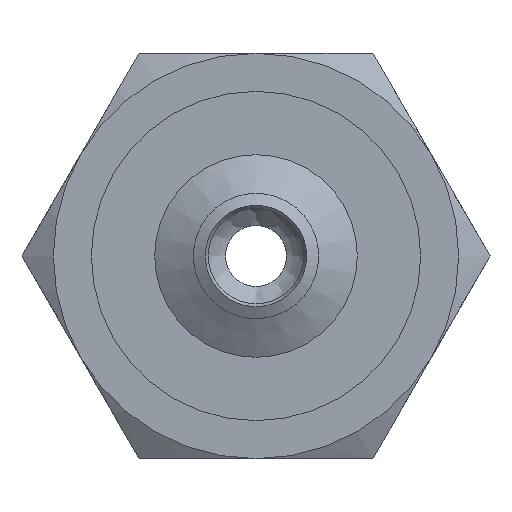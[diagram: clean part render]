
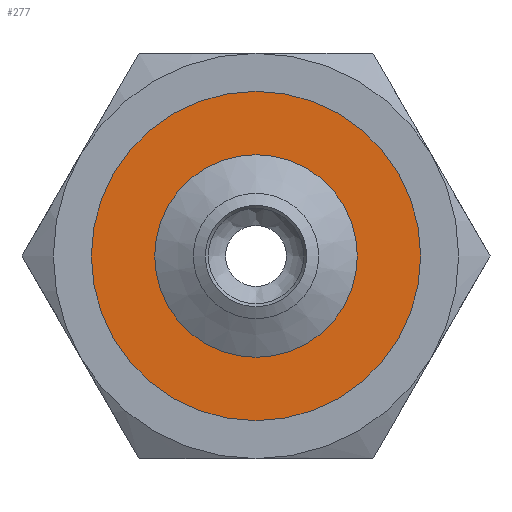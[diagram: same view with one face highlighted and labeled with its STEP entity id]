
A CAD part, front view. The second image highlights one B-rep face of the part: STEP entity #277.
In plain terms, the highlighted planar face has unit normal (0, -1, 0).
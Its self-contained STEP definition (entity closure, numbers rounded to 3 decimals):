
#277=ADVANCED_FACE('',(#357,#358),#359,.T.);
#357=FACE_BOUND('',#526,.T.);
#358=FACE_OUTER_BOUND('',#527,.T.);
#359=PLANE('',#528);
#526=EDGE_LOOP('',(#744));
#527=EDGE_LOOP('',(#745));
#528=AXIS2_PLACEMENT_3D('',#746,#747,#748);
#744=ORIENTED_EDGE('',*,*,#1064,.F.);
#745=ORIENTED_EDGE('',*,*,#1068,.T.);
#746=CARTESIAN_POINT('',(0.6,0.,0.0));
#747=DIRECTION('',(0.0,-1.0,0.0));
#748=DIRECTION('',(0.0,0.0,-1.0));
#1064=EDGE_CURVE('',#1156,#1156,#1157,.T.);
#1068=EDGE_CURVE('',#1164,#1164,#1165,.T.);
#1156=VERTEX_POINT('',#1308);
#1157=CIRCLE('',#1309,1.0);
#1164=VERTEX_POINT('',#1316);
#1165=CIRCLE('',#1317,3.25);
#1308=CARTESIAN_POINT('',(0.0,0.,-1.0));
#1309=AXIS2_PLACEMENT_3D('',#1509,#1510,#1511);
#1316=CARTESIAN_POINT('',(0.0,0.,-3.25));
#1317=AXIS2_PLACEMENT_3D('',#1521,#1522,#1523);
#1509=CARTESIAN_POINT('',(0.0,0.,0.0));
#1510=DIRECTION('',(0.0,-1.0,0.0));
#1511=DIRECTION('',(0.0,0.0,-1.0));
#1521=CARTESIAN_POINT('',(0.0,0.,0.0));
#1522=DIRECTION('',(0.0,-1.0,0.0));
#1523=DIRECTION('',(0.0,0.0,-1.0));
